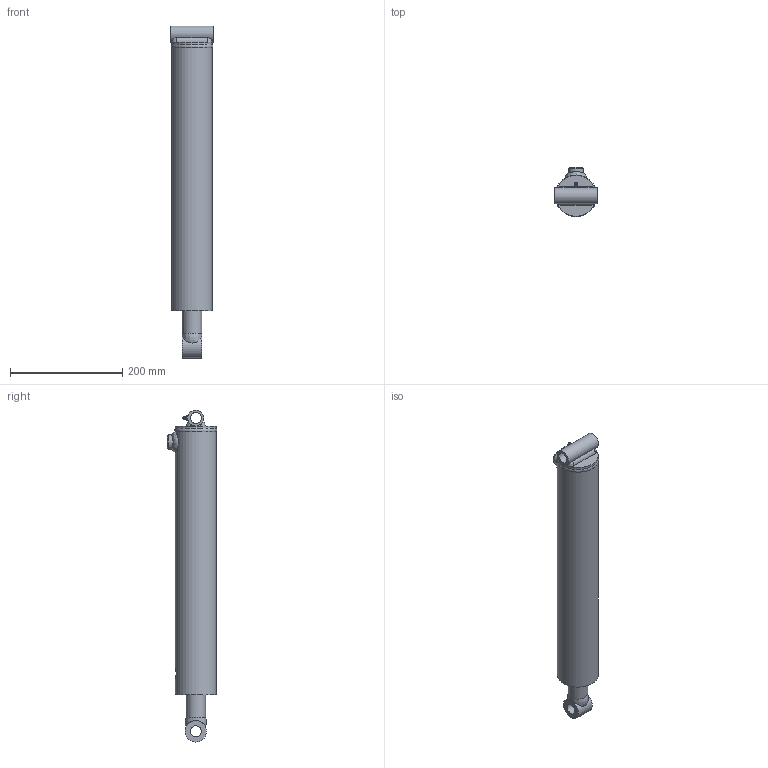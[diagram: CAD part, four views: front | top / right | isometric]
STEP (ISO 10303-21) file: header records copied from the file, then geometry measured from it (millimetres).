
FILE_DESCRIPTION((''),'2;1');
FILE_NAME('\\SRVR-ENG\EngSales\PMC-5414.stp','2012-04-30T08:17:25',('KneiflD'),(''),'Autodesk Inventor 2012','Autodesk Inventor 2012','');
FILE_SCHEMA(('AUTOMOTIVE_DESIGN { 1 0 10303 214 1 1 1 1 }'));
Length unit declared in the file: inch
Products named in the file (16): PMC-5414; 061300084; 051300120; 161300005; 200014303; 210300144; B&TWeldVest; PortWeldVest; X-tube Weld; 081300356; 020700169; 010700662; 210300202; Rod Weld; 270010020; 230001250
Assembly tree (15 placements, depth 3):
  PMC-5414
    061300084
      051300120
      161300005
      200014303
      210300144
      B&TWeldVest
      PortWeldVest
      X-tube Weld
    081300356
    020700169
      010700662
      210300202
      Rod Weld
    270010020
    230001250
Bounding box: 76.2 x 87.97 x 592.12 mm (x, y, z)
Volume: 1157131.5 mm3; surface area: 338722.4 mm2
Topology: 13 solids, 13 shells, 135 faces, 290 edges, 185 vertices
Faces by surface type: cylinder 50, plane 50, cone 18, torus 9, bspline 7, sphere 1
Full cylindrical faces by diameter (mm): 1.524 x1, 2.794 x2, 5.41 x1, 6.074 x1, 8.839 x1, 9.525 x1, 13.889 x1, 18.999 x1, 19.558 x1, 19.837 x1, 19.844 x1, 25.4 x2, 28.575 x1, 34.925 x1, 35.001 x2, 38.1 x1, 38.71 x1, 41.275 x2, 42.85 x1, 48.768 x1, 54.864 x1, 58.725 x1, 63.246 x2, 63.5 x2, 65.088 x2, 67.259 x1, 73.025 x2
Entity records: 4796 total; most frequent: CARTESIAN_POINT 1690, DIRECTION 603, ORIENTED_EDGE 418, AXIS2_PLACEMENT_3D 280, EDGE_LOOP 236, EDGE_CURVE 209, VERTEX_POINT 171, FACE_OUTER_BOUND 135
